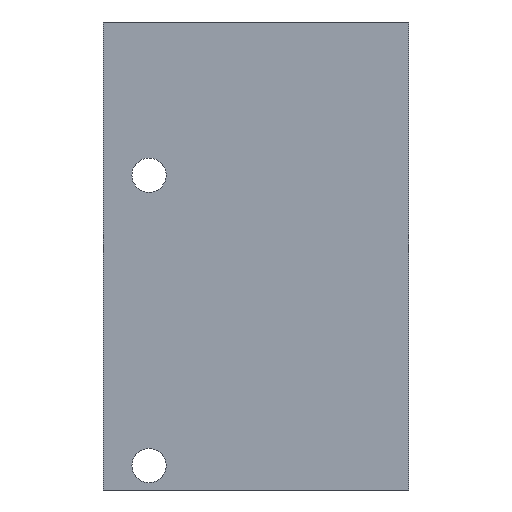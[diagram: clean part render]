
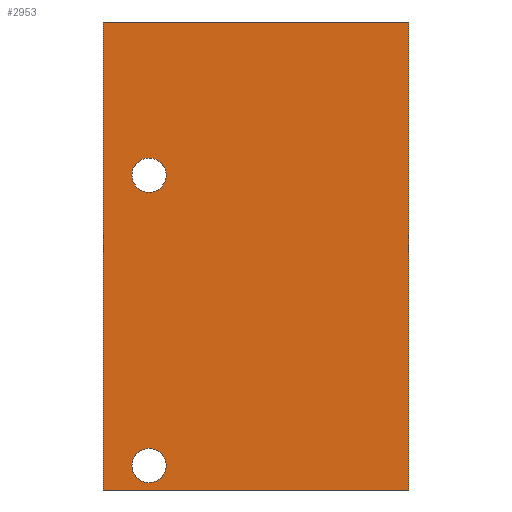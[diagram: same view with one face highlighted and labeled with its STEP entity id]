
A CAD part, front view. The second image highlights one B-rep face of the part: STEP entity #2953.
In plain terms, the highlighted planar face has unit normal (0, -1, 0).
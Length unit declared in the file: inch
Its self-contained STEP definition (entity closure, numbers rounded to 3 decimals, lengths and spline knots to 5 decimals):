
#128=CIRCLE('',#3135,0.14);
#130=CIRCLE('',#3138,0.14);
#267=FACE_BOUND('',#775,.T.);
#268=FACE_BOUND('',#776,.T.);
#269=FACE_BOUND('',#777,.T.);
#775=EDGE_LOOP('',(#2471));
#776=EDGE_LOOP('',(#2472));
#777=EDGE_LOOP('',(#2473,#2474,#2475,#2476));
#1048=LINE('',#4954,#1248);
#1050=LINE('',#5182,#1250);
#1054=LINE('',#5256,#1254);
#1056=LINE('',#5267,#1256);
#1248=VECTOR('',#3587,3.828);
#1250=VECTOR('',#3693,3.828);
#1254=VECTOR('',#3741,2.5);
#1256=VECTOR('',#3755,2.5);
#1417=VERTEX_POINT('',#4947);
#1420=VERTEX_POINT('',#4952);
#1452=VERTEX_POINT('',#5179);
#1453=VERTEX_POINT('',#5181);
#1462=VERTEX_POINT('',#5239);
#1464=VERTEX_POINT('',#5244);
#1761=EDGE_CURVE('',#1420,#1417,#1048,.T.);
#1795=EDGE_CURVE('',#1453,#1452,#1050,.T.);
#1805=EDGE_CURVE('',#1462,#1462,#128,.T.);
#1807=EDGE_CURVE('',#1464,#1464,#130,.T.);
#1812=EDGE_CURVE('',#1453,#1420,#1054,.T.);
#1817=EDGE_CURVE('',#1452,#1417,#1056,.T.);
#2471=ORIENTED_EDGE('',*,*,#1805,.T.);
#2472=ORIENTED_EDGE('',*,*,#1807,.T.);
#2473=ORIENTED_EDGE('',*,*,#1817,.T.);
#2474=ORIENTED_EDGE('',*,*,#1761,.F.);
#2475=ORIENTED_EDGE('',*,*,#1812,.F.);
#2476=ORIENTED_EDGE('',*,*,#1795,.T.);
#2644=PLANE('',#3173);
#2953=ADVANCED_FACE('',(#267,#268,#269),#2644,.T.);
#3135=AXIS2_PLACEMENT_3D('',#5240,#3720,#3721);
#3138=AXIS2_PLACEMENT_3D('',#5245,#3726,#3727);
#3173=AXIS2_PLACEMENT_3D('',#5299,#3800,#3801);
#3587=DIRECTION('',(0.,0.,1.));
#3693=DIRECTION('',(0.,0.,1.));
#3720=DIRECTION('center_axis',(0.,1.,0.));
#3721=DIRECTION('ref_axis',(1.,0.,0.));
#3726=DIRECTION('center_axis',(0.,1.,0.));
#3727=DIRECTION('ref_axis',(1.,0.,0.));
#3741=DIRECTION('',(-1.,0.,0.));
#3755=DIRECTION('',(-1.,0.,0.));
#3800=DIRECTION('center_axis',(0.,-1.,0.));
#3801=DIRECTION('ref_axis',(0.,0.,-1.));
#4947=CARTESIAN_POINT('',(-1.25,-0.75,3.828));
#4952=CARTESIAN_POINT('',(-1.25,-0.75,0.));
#4954=CARTESIAN_POINT('',(-1.25,-0.75,0.));
#5179=CARTESIAN_POINT('',(1.25,-0.75,3.828));
#5181=CARTESIAN_POINT('',(1.25,-0.75,0.));
#5182=CARTESIAN_POINT('',(1.25,-0.75,0.));
#5239=CARTESIAN_POINT('',(-0.735,-0.75,2.575));
#5240=CARTESIAN_POINT('Origin',(-0.875,-0.75,2.575));
#5244=CARTESIAN_POINT('',(-0.735,-0.75,0.2));
#5245=CARTESIAN_POINT('Origin',(-0.875,-0.75,0.2));
#5256=CARTESIAN_POINT('',(1.25,-0.75,0.));
#5267=CARTESIAN_POINT('',(1.25,-0.75,3.828));
#5299=CARTESIAN_POINT('Origin',(1.25,-0.75,0.));
